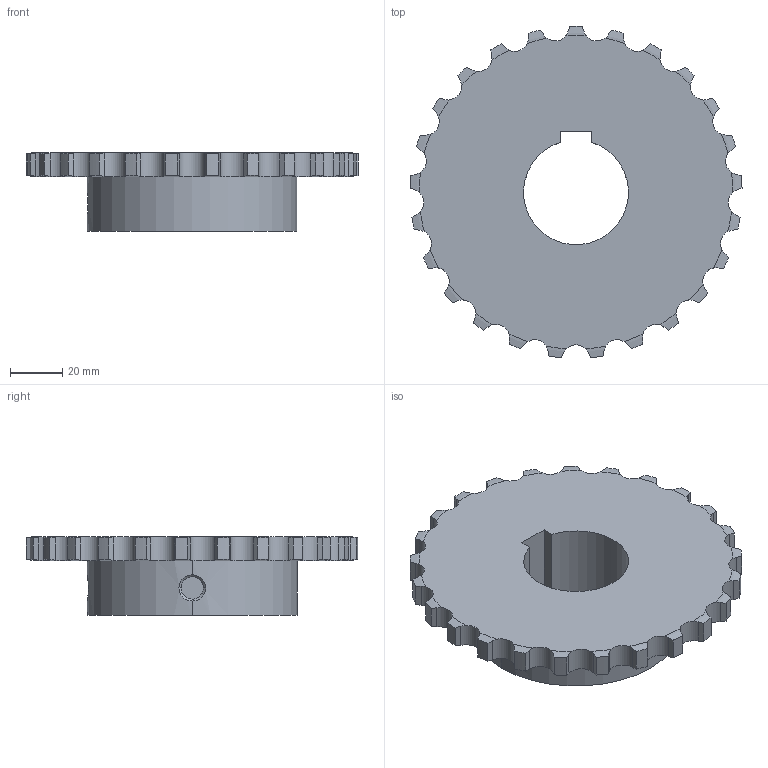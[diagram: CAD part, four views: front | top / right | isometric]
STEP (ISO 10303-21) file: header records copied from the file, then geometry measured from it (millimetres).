
FILE_DESCRIPTION((''),'2;1');
FILE_NAME('510-301-4025_PRT','2021-02-13T',('Brieden'),('Brieden'),'PRO/ENGINEER BY PARAMETRIC TECHNOLOGY CORPORATION, 2010160','PRO/ENGINEER BY PARAMETRIC TECHNOLOGY CORPORATION, 2010160','');
FILE_SCHEMA(('AUTOMOTIVE_DESIGN { 1 0 10303 214 1 1 1 1 }'));
Length unit declared in the file: millimetre
Products named in the file (1): 510-301-4025_PRT
Bounding box: 126.62 x 126.41 x 30 mm (x, y, z)
Volume: 169629.2 mm3; surface area: 35054.8 mm2
Topology: 1 solids, 1 shells, 171 faces, 495 edges, 328 vertices
Faces by surface type: cylinder 107, torus 50, plane 8, bspline 6
Entity records: 8501 total; most frequent: CARTESIAN_POINT 2720, ORIENTED_EDGE 990, DIRECTION 773, PRESENTATION_STYLE_ASSIGNMENT 496, STYLED_ITEM 496, CURVE_STYLE 495, EDGE_CURVE 495, VERTEX_POINT 328
